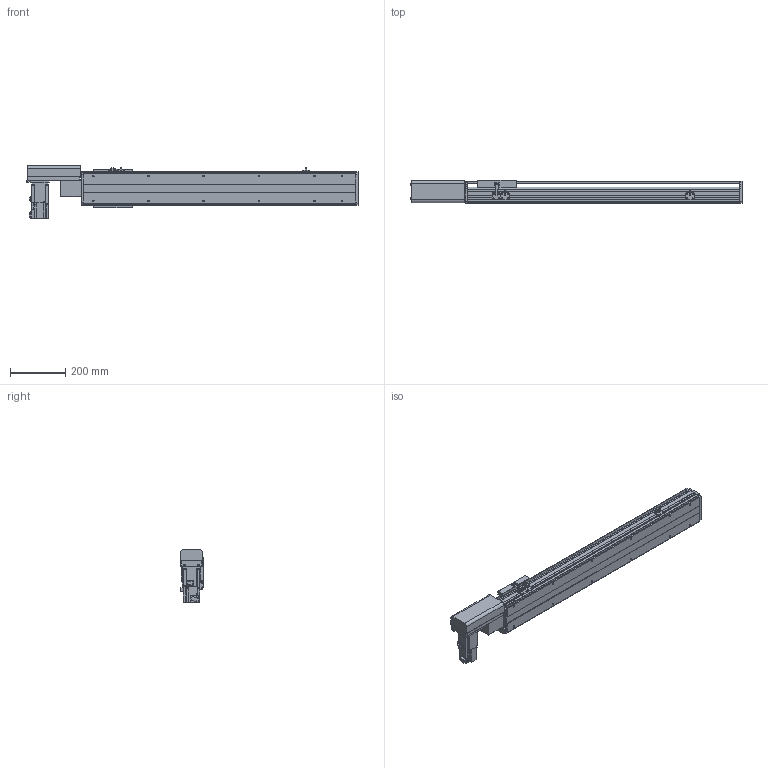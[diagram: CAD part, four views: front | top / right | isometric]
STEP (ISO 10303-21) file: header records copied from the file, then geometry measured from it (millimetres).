
FILE_DESCRIPTION(/* description */ ('STEP AP214'),/* implementation_level */ '2;1');
FILE_NAME(/* name */ 'PBS120-P40-S700-R-T40-C1-N(0)',/* time_stamp */ '2022-06-06T02:06:08+02:00',/* author */ ('License CC BY-ND 4.0'),/* organization */ ('CADENAS'),/* preprocessor_version */ 'ST-DEVELOPER v18.102',/* originating_system */ 'PARTsolutions',/* authorisation */ ' ');
FILE_SCHEMA (('AUTOMOTIVE_DESIGN {1 0 10303 214 3 1 1}'));
Length unit declared in the file: millimetre
Products named in the file (7): PBS120-P40-S700-R-T40-C1-N(0); PBS120_sensor; PBS120_plant; PBS120_sliser; T40-p1; PBS120T-R_motors; PBS120-S700()_body
Assembly tree (8 placements, depth 2):
  PBS120-P40-S700-R-T40-C1-N(0)
    PBS120_sensor  x3
    PBS120_plant
    PBS120_sliser
    T40-p1
    PBS120T-R_motors
    PBS120-S700()_body
Bounding box: 1201 x 83 x 189.7 mm (x, y, z)
Volume: 4984705 mm3; surface area: 948371.7 mm2
Topology: 8 solids, 8 shells, 816 faces, 2136 edges, 1375 vertices
Faces by surface type: plane 545, cylinder 225, cone 44, torus 2
Full cylindrical faces by diameter (mm): 2.459 x6, 3.242 x4, 4 x2, 4.134 x4, 4.5 x10, 4.917 x16, 5.5 x11, 6 x2, 6.6 x1, 7 x2, 8.5 x4, 9 x4, 12 x1, 14 x1, 30 x2, 40 x1, 50 x2
Entity records: 21354 total; most frequent: DIRECTION 3692, CARTESIAN_POINT 3641, ORIENTED_EDGE 3478, EDGE_CURVE 1739, AXIS2_PLACEMENT_3D 1232, LINE 1228, VECTOR 1228, VERTEX_POINT 1181
